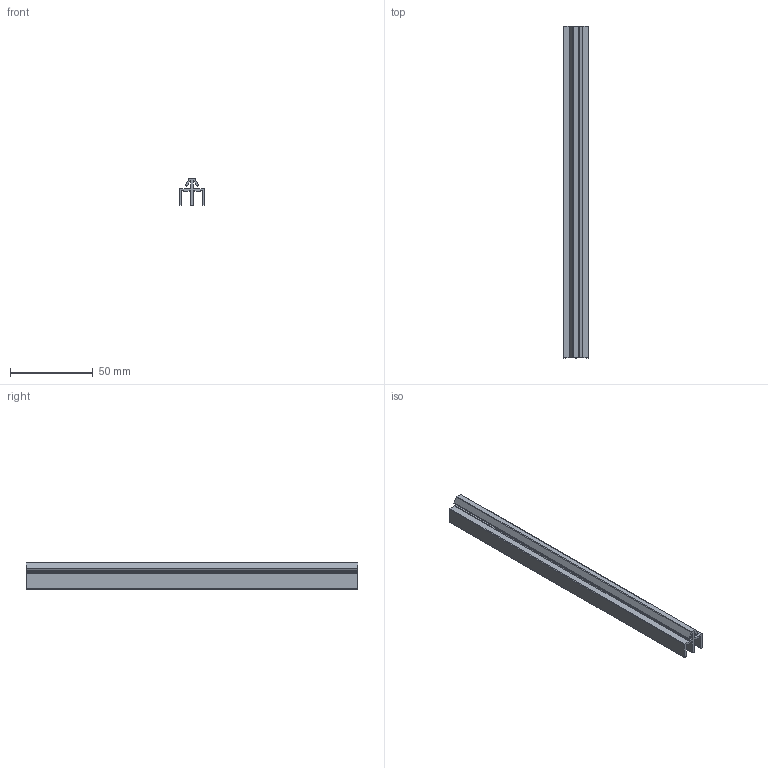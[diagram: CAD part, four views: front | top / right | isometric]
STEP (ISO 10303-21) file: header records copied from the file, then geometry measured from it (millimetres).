
FILE_DESCRIPTION(('STEP AP214'),'1');
FILE_NAME('SG2U-.stp','2016-12-12T05:29:53',(' '),(' '),'Spatial InterOp 3D',' ',' ');
FILE_SCHEMA(('automotive_design'));
Length unit declared in the file: millimetre
Products named in the file (1): SG2U-
Bounding box: 15.5 x 200 x 16 mm (x, y, z)
Volume: 16613 mm3; surface area: 23203.5 mm2
Topology: 1 solids, 1 shells, 50 faces, 144 edges, 96 vertices
Faces by surface type: plane 30, cylinder 20
Entity records: 2064 total; most frequent: CARTESIAN_POINT 291, ORIENTED_EDGE 288, DIRECTION 286, EDGE_CURVE 144, LINE 104, VECTOR 104, VERTEX_POINT 96, AXIS2_PLACEMENT_3D 91
